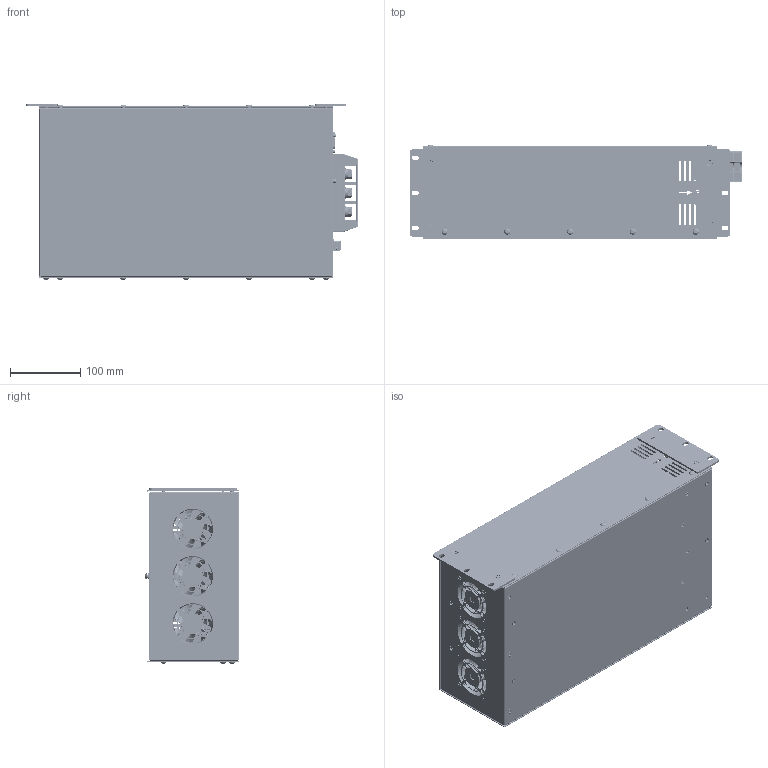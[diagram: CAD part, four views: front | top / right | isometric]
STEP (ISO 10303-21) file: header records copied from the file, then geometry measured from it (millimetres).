
FILE_DESCRIPTION(/* description */ (''),/* implementation_level */ '2;1');
FILE_NAME(/* name */ '',/* time_stamp */ '2026-06-11T11:30:34+09:00',/* author */ ('Administrator'),/* organization */ (''),/* preprocessor_version */ 'ST-DEVELOPER v20.1',/* originating_system */ 'Autodesk Inventor 2026',/* authorisation */ '');
FILE_SCHEMA (('AUTOMOTIVE_DESIGN { 1 0 10303 214 3 1 1 }'));
Products named in the file (1): VX3COM_OLED_V_2026.06.10_단순화_1
Bounding box: 474 x 134.59 x 250.79 mm (x, y, z)
Volume: 720426.1 mm3; surface area: 948346.2 mm2
Topology: 19 solids, 19 shells, 9303 faces, 24712 edges, 16031 vertices
Faces by surface type: plane 5582, cylinder 1934, bspline 1502, torus 166, cone 70, sphere 49
Full cylindrical faces by diameter (mm): 0.013 x9, 0.6 x3, 0.609 x1, 0.61 x27, 0.635 x9, 0.7 x18, 0.75 x18, 0.85 x3, 0.9 x24, 1 x5, 1.397 x9, 1.5 x4, 2.1 x4, 2.286 x9, 2.5 x4, 2.8 x12, 2.957 x12, 3 x6, 3.048 x4, 3.4 x6, 3.6 x19, 3.783 x2, 3.8 x6, 3.9 x2, 4 x23, 4.3 x12, 4.5 x20, 5 x23, 5.3 x20, 5.4 x6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
Entity records: 333192 total; most frequent: CARTESIAN_POINT 97405, ORIENTED_EDGE 49362, DIRECTION 42629, EDGE_CURVE 24681, LINE 16275, VECTOR 16275, VERTEX_POINT 16031, AXIS2_PLACEMENT_3D 13177
